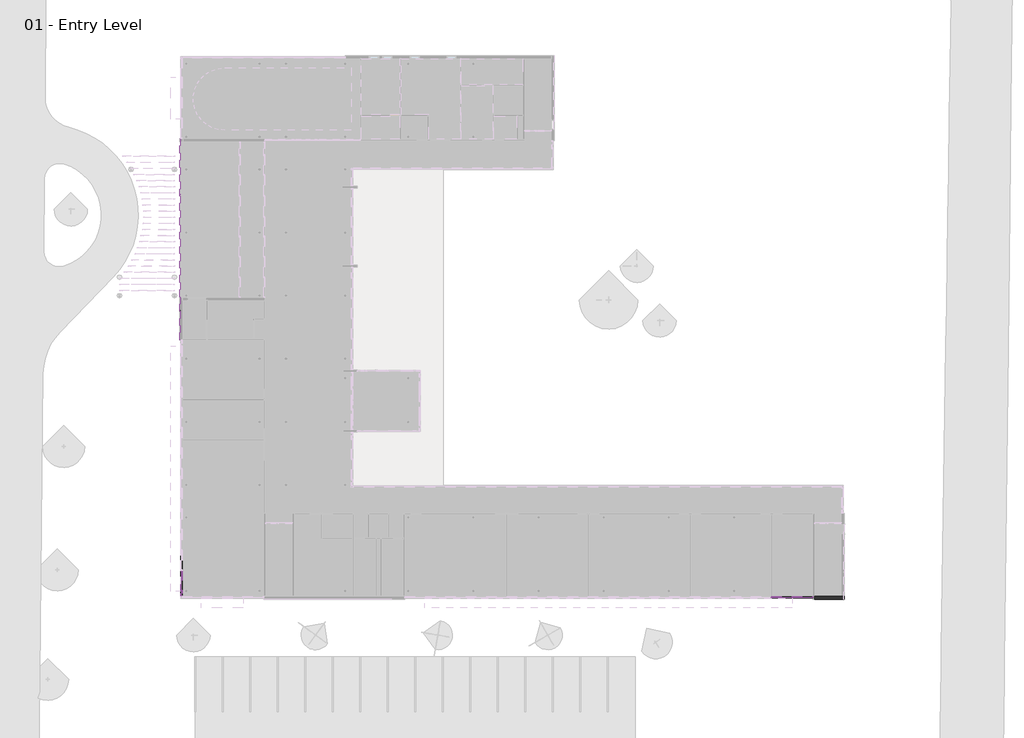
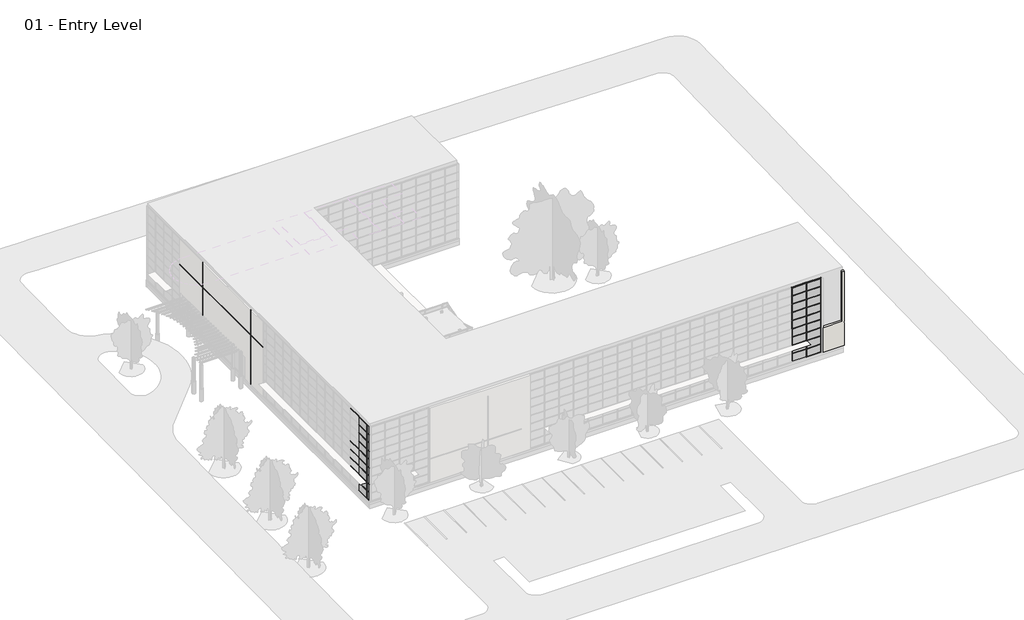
# One storey, part 6 of 35: 86 members, 36 plates, 3 proxies, 1 wall.
"""IFC4 building model written with IfcOpenShell, lengths in millimetres."""

from ifc_helpers import new_model, si_unit, frame, origin, origin_with_axes, place, context, project, spatial, polyline, outline, extrude, faceted_brep, transform, mapped, element, save
from components import member_2b49869a, member_75074519, member_391b434c, member_9e90ae50, member_b9f3750b, member_757d0d80, system_panel_glazed_1b9d6098, system_panel_glazed_70da479d, system_panel_glazed_9ce660bb, system_panel_glazed_81ef7bb2, system_panel_solid_b376696c, system_panel_solid_77e8b053, system_panel_solid_a9b7ce64, system_panel_solid_b759d50d

model = new_model("IFC4")

# Units and contexts
model_context = context("Model", 3, world=origin())
ifc_project = project(units=[si_unit("LENGTHUNIT", "METRE", prefix="MILLI")], contexts=[model_context])

# Site, building, storey
site = spatial("IfcSite", under=ifc_project)
building = spatial("IfcBuilding", under=site)
storey = spatial("IfcBuildingStorey", under=building, Name="01 - Entry Level", Elevation=0.0)

# Proxies
placement = place(None, origin())
element("IfcBuildingElementProxy", 1, Name="Reveal", ObjectType="Reveal", at=placement, inside=storey, context=model_context, shape_type="SweptSolid", body=[
    extrude(outline(polyline([(-27.6542524, 45735.8), (23.1457476, 45735.8), (23.1457476, 25638.05), (-27.6542524, 25638.05), (-27.6542524, 45735.8)])), frame((0.0, 0.0, 7239.0), z_axis=(0.0, 0.0, 1.0), x_axis=(1.0, 0.0, 0.0)), (0.0, 0.0, 1.0), 76.2),
])
element("IfcBuildingElementProxy", 2, Name="Reveal", ObjectType="Reveal", at=placement, inside=storey, context=model_context, shape_type="SweptSolid", body=[
    extrude(outline(polyline([(23.1457476, 40097.0), (-27.6542524, 40097.0), (-27.6542524, 40173.2), (23.1457476, 40173.2), (23.1457476, 40097.0)])), frame((0.0, 0.0, 3200.4), z_axis=(0.0, 0.0, 1.0), x_axis=(1.0, 0.0, 0.0)), (0.0, 0.0, 1.0), 7772.4),
])
element("IfcBuildingElementProxy", 3, Name="Reveal", ObjectType="Reveal", at=placement, inside=storey, context=model_context, shape_type="SweptSolid", body=[
    extrude(outline(polyline([(23.1457476, 28514.6), (-27.6542524, 28514.6), (-27.6542524, 28590.8), (23.1457476, 28590.8), (23.1457476, 28514.6)])), origin_with_axes(), (0.0, 0.0, 1.0), 10972.8),
])

# Members
member_shape = member_2b49869a(model_context)
element("IfcMember", 4, ObjectType="Rectangular Mullion : 2.5\" x 5\" rectangular", at=placement, inside=storey, context=model_context, shape_type="MappedRepresentation", body=[
    mapped(member_shape, transform((59043.2207476, -47.7, 9753.6), x_axis=(1.0, 0.0, 0.0), y_axis=(0.0, -1.0, 0.0), z_axis=(0.0, 0.0, -1.0))),
])
element("IfcMember", 5, ObjectType="Rectangular Mullion : 2.5\" x 5\" rectangular", at=placement, inside=storey, context=model_context, shape_type="MappedRepresentation", body=[
    mapped(member_shape, transform((61075.2207476, -47.7, 9753.6), x_axis=(1.0, 0.0, 0.0), y_axis=(0.0, -1.0, 0.0), z_axis=(0.0, 0.0, -1.0))),
])
element("IfcMember", 6, ObjectType="Rectangular Mullion : 2.5\" x 5\" rectangular", at=placement, inside=storey, context=model_context, shape_type="MappedRepresentation", body=[
    mapped(member_shape, transform((63107.2207476, -47.7, 9753.6), x_axis=(1.0, 0.0, 0.0), y_axis=(0.0, -1.0, 0.0), z_axis=(0.0, 0.0, -1.0))),
])
element("IfcMember", 7, ObjectType="Rectangular Mullion : 2.5\" x 5\" rectangular", at=placement, inside=storey, context=model_context, shape_type="MappedRepresentation", body=[
    mapped(member_shape, transform((178.7207476, 600.0, 9753.6), x_axis=(0.0, -1.0, 0.0), y_axis=(-1.0, 0.0, 0.0), z_axis=(0.0, 0.0, -1.0))),
])
member_2_shape = member_75074519(model_context)
element("IfcMember", 8, ObjectType="Rectangular Mullion : 2.5\" x 5\" rectangular", at=placement, inside=storey, context=model_context, shape_type="MappedRepresentation", body=[
    mapped(member_2_shape, transform((63145.3207476, -47.7, 9753.6), x_axis=(1.0, 0.0, 0.0), y_axis=(0.0, -1.0, 0.0), z_axis=(0.0, 0.0, -1.0))),
])
member_3_shape = member_391b434c(model_context)
element("IfcMember", 9, ObjectType="Rectangular Mullion : 2.5\" x 5\" rectangular", at=placement, inside=storey, context=model_context, shape_type="MappedRepresentation", body=[
    mapped(member_3_shape, transform((178.7207476, 2663.75, 10972.8), x_axis=(0.0, 0.0, 1.0), y_axis=(-1.0, 0.0, 0.0), z_axis=(0.0, -1.0, 0.0))),
])
element("IfcMember", 10, ObjectType="Rectangular Mullion : 2.5\" x 5\" rectangular", at=placement, inside=storey, context=model_context, shape_type="MappedRepresentation", body=[
    mapped(member_3_shape, transform((61043.4707476, -47.7, 10972.8), x_axis=(0.0, 0.0, 1.0), y_axis=(0.0, -1.0, 0.0), z_axis=(1.0, 0.0, 0.0))),
])
element("IfcMember", 11, ObjectType="Rectangular Mullion : 2.5\" x 5\" rectangular", at=placement, inside=storey, context=model_context, shape_type="MappedRepresentation", body=[
    mapped(member_3_shape, transform((63075.4707476, -47.7, 10972.8), x_axis=(0.0, 0.0, 1.0), y_axis=(0.0, -1.0, 0.0), z_axis=(1.0, 0.0, 0.0))),
])
element("IfcMember", 12, ObjectType="Rectangular Mullion : 2.5\" x 5\" rectangular", at=placement, inside=storey, context=model_context, shape_type="MappedRepresentation", body=[
    mapped(member_3_shape, transform((178.7207476, 631.75, 10972.8), x_axis=(0.0, 0.0, 1.0), y_axis=(-1.0, 0.0, 0.0), z_axis=(0.0, -1.0, 0.0))),
])
element("IfcMember", 13, ObjectType="Rectangular Mullion : 2.5\" x 5\" rectangular", at=placement, inside=storey, context=model_context, shape_type="MappedRepresentation", body=[
    mapped(member_3_shape, transform((178.7207476, 2600.25, 0.0), x_axis=(0.0, 0.0, -1.0), y_axis=(-1.0, 0.0, 0.0), z_axis=(0.0, 1.0, 0.0))),
])
element("IfcMember", 14, ObjectType="Rectangular Mullion : 2.5\" x 5\" rectangular", at=placement, inside=storey, context=model_context, shape_type="MappedRepresentation", body=[
    mapped(member_3_shape, transform((61106.9707476, -47.7, 0.0), x_axis=(0.0, 0.0, -1.0), y_axis=(0.0, -1.0, 0.0), z_axis=(-1.0, 0.0, 0.0))),
])
member_4_shape = member_9e90ae50(model_context)
element("IfcMember", 15, ObjectType="Rectangular Mullion : 2.5\" x 5\" rectangular", at=placement, inside=storey, context=model_context, shape_type="MappedRepresentation", body=[
    mapped(member_4_shape, transform((178.7207476, 2663.75, 1219.2), x_axis=(0.0, 0.0, 1.0), y_axis=(-1.0, 0.0, 0.0), z_axis=(0.0, -1.0, 0.0))),
])
element("IfcMember", 16, ObjectType="Rectangular Mullion : 2.5\" x 5\" rectangular", at=placement, inside=storey, context=model_context, shape_type="MappedRepresentation", body=[
    mapped(member_4_shape, transform((178.7207476, 631.75, 1219.2), x_axis=(0.0, 0.0, 1.0), y_axis=(-1.0, 0.0, 0.0), z_axis=(0.0, -1.0, 0.0))),
])
element("IfcMember", 17, ObjectType="Rectangular Mullion : 2.5\" x 5\" rectangular", at=placement, inside=storey, context=model_context, shape_type="MappedRepresentation", body=[
    mapped(member_4_shape, transform((178.7207476, 2663.75, 2438.4), x_axis=(0.0, 0.0, 1.0), y_axis=(-1.0, 0.0, 0.0), z_axis=(0.0, -1.0, 0.0))),
])
element("IfcMember", 18, ObjectType="Rectangular Mullion : 2.5\" x 5\" rectangular", at=placement, inside=storey, context=model_context, shape_type="MappedRepresentation", body=[
    mapped(member_4_shape, transform((178.7207476, 631.75, 2438.4), x_axis=(0.0, 0.0, 1.0), y_axis=(-1.0, 0.0, 0.0), z_axis=(0.0, -1.0, 0.0))),
])
element("IfcMember", 19, ObjectType="Rectangular Mullion : 2.5\" x 5\" rectangular", at=placement, inside=storey, context=model_context, shape_type="MappedRepresentation", body=[
    mapped(member_4_shape, transform((178.7207476, 2663.75, 3657.6), x_axis=(0.0, 0.0, 1.0), y_axis=(-1.0, 0.0, 0.0), z_axis=(0.0, -1.0, 0.0))),
])
element("IfcMember", 20, ObjectType="Rectangular Mullion : 2.5\" x 5\" rectangular", at=placement, inside=storey, context=model_context, shape_type="MappedRepresentation", body=[
    mapped(member_4_shape, transform((178.7207476, 631.75, 3657.6), x_axis=(0.0, 0.0, 1.0), y_axis=(-1.0, 0.0, 0.0), z_axis=(0.0, -1.0, 0.0))),
])
element("IfcMember", 21, ObjectType="Rectangular Mullion : 2.5\" x 5\" rectangular", at=placement, inside=storey, context=model_context, shape_type="MappedRepresentation", body=[
    mapped(member_4_shape, transform((178.7207476, 2663.75, 4876.8), x_axis=(0.0, 0.0, 1.0), y_axis=(-1.0, 0.0, 0.0), z_axis=(0.0, -1.0, 0.0))),
])
element("IfcMember", 22, ObjectType="Rectangular Mullion : 2.5\" x 5\" rectangular", at=placement, inside=storey, context=model_context, shape_type="MappedRepresentation", body=[
    mapped(member_4_shape, transform((178.7207476, 631.75, 4876.8), x_axis=(0.0, 0.0, 1.0), y_axis=(-1.0, 0.0, 0.0), z_axis=(0.0, -1.0, 0.0))),
])
element("IfcMember", 23, ObjectType="Rectangular Mullion : 2.5\" x 5\" rectangular", at=placement, inside=storey, context=model_context, shape_type="MappedRepresentation", body=[
    mapped(member_4_shape, transform((178.7207476, 2663.75, 6096.0), x_axis=(0.0, 0.0, 1.0), y_axis=(-1.0, 0.0, 0.0), z_axis=(0.0, -1.0, 0.0))),
])
element("IfcMember", 24, ObjectType="Rectangular Mullion : 2.5\" x 5\" rectangular", at=placement, inside=storey, context=model_context, shape_type="MappedRepresentation", body=[
    mapped(member_4_shape, transform((178.7207476, 631.75, 6096.0), x_axis=(0.0, 0.0, 1.0), y_axis=(-1.0, 0.0, 0.0), z_axis=(0.0, -1.0, 0.0))),
])
element("IfcMember", 25, ObjectType="Rectangular Mullion : 2.5\" x 5\" rectangular", at=placement, inside=storey, context=model_context, shape_type="MappedRepresentation", body=[
    mapped(member_4_shape, transform((178.7207476, 631.75, 7315.2), x_axis=(0.0, 0.0, 1.0), y_axis=(-1.0, 0.0, 0.0), z_axis=(0.0, -1.0, 0.0))),
])
element("IfcMember", 26, ObjectType="Rectangular Mullion : 2.5\" x 5\" rectangular", at=placement, inside=storey, context=model_context, shape_type="MappedRepresentation", body=[
    mapped(member_4_shape, transform((178.7207476, 631.75, 8534.4), x_axis=(0.0, 0.0, 1.0), y_axis=(-1.0, 0.0, 0.0), z_axis=(0.0, -1.0, 0.0))),
])
element("IfcMember", 27, ObjectType="Rectangular Mullion : 2.5\" x 5\" rectangular", at=placement, inside=storey, context=model_context, shape_type="MappedRepresentation", body=[
    mapped(member_4_shape, transform((178.7207476, 631.75, 9753.6), x_axis=(0.0, 0.0, 1.0), y_axis=(-1.0, 0.0, 0.0), z_axis=(0.0, -1.0, 0.0))),
])
element("IfcMember", 28, ObjectType="Rectangular Mullion : 2.5\" x 5\" rectangular", at=placement, inside=storey, context=model_context, shape_type="MappedRepresentation", body=[
    mapped(member_4_shape, transform((61043.4707476, -47.7, 1219.2), x_axis=(0.0, 0.0, 1.0), y_axis=(0.0, -1.0, 0.0), z_axis=(1.0, 0.0, 0.0))),
])
element("IfcMember", 29, ObjectType="Rectangular Mullion : 2.5\" x 5\" rectangular", at=placement, inside=storey, context=model_context, shape_type="MappedRepresentation", body=[
    mapped(member_4_shape, transform((63075.4707476, -47.7, 1219.2), x_axis=(0.0, 0.0, 1.0), y_axis=(0.0, -1.0, 0.0), z_axis=(1.0, 0.0, 0.0))),
])
element("IfcMember", 30, ObjectType="Rectangular Mullion : 2.5\" x 5\" rectangular", at=placement, inside=storey, context=model_context, shape_type="MappedRepresentation", body=[
    mapped(member_4_shape, transform((61043.4707476, -47.7, 2438.4), x_axis=(0.0, 0.0, 1.0), y_axis=(0.0, -1.0, 0.0), z_axis=(1.0, 0.0, 0.0))),
])
element("IfcMember", 31, ObjectType="Rectangular Mullion : 2.5\" x 5\" rectangular", at=placement, inside=storey, context=model_context, shape_type="MappedRepresentation", body=[
    mapped(member_4_shape, transform((63075.4707476, -47.7, 2438.4), x_axis=(0.0, 0.0, 1.0), y_axis=(0.0, -1.0, 0.0), z_axis=(1.0, 0.0, 0.0))),
])
element("IfcMember", 32, ObjectType="Rectangular Mullion : 2.5\" x 5\" rectangular", at=placement, inside=storey, context=model_context, shape_type="MappedRepresentation", body=[
    mapped(member_4_shape, transform((61043.4707476, -47.7, 3657.6), x_axis=(0.0, 0.0, 1.0), y_axis=(0.0, -1.0, 0.0), z_axis=(1.0, 0.0, 0.0))),
])
element("IfcMember", 33, ObjectType="Rectangular Mullion : 2.5\" x 5\" rectangular", at=placement, inside=storey, context=model_context, shape_type="MappedRepresentation", body=[
    mapped(member_4_shape, transform((63075.4707476, -47.7, 3657.6), x_axis=(0.0, 0.0, 1.0), y_axis=(0.0, -1.0, 0.0), z_axis=(1.0, 0.0, 0.0))),
])
element("IfcMember", 34, ObjectType="Rectangular Mullion : 2.5\" x 5\" rectangular", at=placement, inside=storey, context=model_context, shape_type="MappedRepresentation", body=[
    mapped(member_4_shape, transform((61043.4707476, -47.7, 4876.8), x_axis=(0.0, 0.0, 1.0), y_axis=(0.0, -1.0, 0.0), z_axis=(1.0, 0.0, 0.0))),
])
element("IfcMember", 35, ObjectType="Rectangular Mullion : 2.5\" x 5\" rectangular", at=placement, inside=storey, context=model_context, shape_type="MappedRepresentation", body=[
    mapped(member_4_shape, transform((63075.4707476, -47.7, 4876.8), x_axis=(0.0, 0.0, 1.0), y_axis=(0.0, -1.0, 0.0), z_axis=(1.0, 0.0, 0.0))),
])
element("IfcMember", 36, ObjectType="Rectangular Mullion : 2.5\" x 5\" rectangular", at=placement, inside=storey, context=model_context, shape_type="MappedRepresentation", body=[
    mapped(member_4_shape, transform((61043.4707476, -47.7, 6096.0), x_axis=(0.0, 0.0, 1.0), y_axis=(0.0, -1.0, 0.0), z_axis=(1.0, 0.0, 0.0))),
])
element("IfcMember", 37, ObjectType="Rectangular Mullion : 2.5\" x 5\" rectangular", at=placement, inside=storey, context=model_context, shape_type="MappedRepresentation", body=[
    mapped(member_4_shape, transform((63075.4707476, -47.7, 6096.0), x_axis=(0.0, 0.0, 1.0), y_axis=(0.0, -1.0, 0.0), z_axis=(1.0, 0.0, 0.0))),
])
element("IfcMember", 38, ObjectType="Rectangular Mullion : 2.5\" x 5\" rectangular", at=placement, inside=storey, context=model_context, shape_type="MappedRepresentation", body=[
    mapped(member_4_shape, transform((61043.4707476, -47.7, 7315.2), x_axis=(0.0, 0.0, 1.0), y_axis=(0.0, -1.0, 0.0), z_axis=(1.0, 0.0, 0.0))),
])
element("IfcMember", 39, ObjectType="Rectangular Mullion : 2.5\" x 5\" rectangular", at=placement, inside=storey, context=model_context, shape_type="MappedRepresentation", body=[
    mapped(member_4_shape, transform((63075.4707476, -47.7, 7315.2), x_axis=(0.0, 0.0, 1.0), y_axis=(0.0, -1.0, 0.0), z_axis=(1.0, 0.0, 0.0))),
])
element("IfcMember", 40, ObjectType="Rectangular Mullion : 2.5\" x 5\" rectangular", at=placement, inside=storey, context=model_context, shape_type="MappedRepresentation", body=[
    mapped(member_4_shape, transform((61043.4707476, -47.7, 8534.4), x_axis=(0.0, 0.0, 1.0), y_axis=(0.0, -1.0, 0.0), z_axis=(1.0, 0.0, 0.0))),
])
element("IfcMember", 41, ObjectType="Rectangular Mullion : 2.5\" x 5\" rectangular", at=placement, inside=storey, context=model_context, shape_type="MappedRepresentation", body=[
    mapped(member_4_shape, transform((63075.4707476, -47.7, 8534.4), x_axis=(0.0, 0.0, 1.0), y_axis=(0.0, -1.0, 0.0), z_axis=(1.0, 0.0, 0.0))),
])
element("IfcMember", 42, ObjectType="Rectangular Mullion : 2.5\" x 5\" rectangular", at=placement, inside=storey, context=model_context, shape_type="MappedRepresentation", body=[
    mapped(member_4_shape, transform((61043.4707476, -47.7, 9753.6), x_axis=(0.0, 0.0, 1.0), y_axis=(0.0, -1.0, 0.0), z_axis=(1.0, 0.0, 0.0))),
])
element("IfcMember", 43, ObjectType="Rectangular Mullion : 2.5\" x 5\" rectangular", at=placement, inside=storey, context=model_context, shape_type="MappedRepresentation", body=[
    mapped(member_4_shape, transform((63075.4707476, -47.7, 9753.6), x_axis=(0.0, 0.0, 1.0), y_axis=(0.0, -1.0, 0.0), z_axis=(1.0, 0.0, 0.0))),
])
element("IfcMember", 44, ObjectType="Rectangular Mullion : 2.5\" x 5\" rectangular", at=placement, inside=storey, context=model_context, shape_type="MappedRepresentation", body=[
    mapped(member_shape, transform((61075.2207476, -47.7, 0.0), x_axis=(1.0, 0.0, 0.0), y_axis=(0.0, -1.0, 0.0), z_axis=(0.0, 0.0, -1.0))),
])
element("IfcMember", 45, ObjectType="Rectangular Mullion : 2.5\" x 5\" rectangular", at=placement, inside=storey, context=model_context, shape_type="MappedRepresentation", body=[
    mapped(member_shape, transform((63107.2207476, -47.7, 0.0), x_axis=(1.0, 0.0, 0.0), y_axis=(0.0, -1.0, 0.0), z_axis=(0.0, 0.0, -1.0))),
])
element("IfcMember", 46, ObjectType="Rectangular Mullion : 2.5\" x 5\" rectangular", at=placement, inside=storey, context=model_context, shape_type="MappedRepresentation", body=[
    mapped(member_shape, transform((178.7207476, 600.0, 0.0), x_axis=(0.0, -1.0, 0.0), y_axis=(-1.0, 0.0, 0.0), z_axis=(0.0, 0.0, -1.0))),
])
element("IfcMember", 47, ObjectType="Rectangular Mullion : 2.5\" x 5\" rectangular", at=placement, inside=storey, context=model_context, shape_type="MappedRepresentation", body=[
    mapped(member_shape, transform((61075.2207476, -47.7, 1219.2), x_axis=(1.0, 0.0, 0.0), y_axis=(0.0, -1.0, 0.0), z_axis=(0.0, 0.0, -1.0))),
])
element("IfcMember", 48, ObjectType="Rectangular Mullion : 2.5\" x 5\" rectangular", at=placement, inside=storey, context=model_context, shape_type="MappedRepresentation", body=[
    mapped(member_shape, transform((61075.2207476, -47.7, 2438.4), x_axis=(1.0, 0.0, 0.0), y_axis=(0.0, -1.0, 0.0), z_axis=(0.0, 0.0, -1.0))),
])
element("IfcMember", 49, ObjectType="Rectangular Mullion : 2.5\" x 5\" rectangular", at=placement, inside=storey, context=model_context, shape_type="MappedRepresentation", body=[
    mapped(member_shape, transform((61075.2207476, -47.7, 3657.6), x_axis=(1.0, 0.0, 0.0), y_axis=(0.0, -1.0, 0.0), z_axis=(0.0, 0.0, -1.0))),
])
element("IfcMember", 50, ObjectType="Rectangular Mullion : 2.5\" x 5\" rectangular", at=placement, inside=storey, context=model_context, shape_type="MappedRepresentation", body=[
    mapped(member_shape, transform((59043.2207476, -47.7, 4876.8), x_axis=(1.0, 0.0, 0.0), y_axis=(0.0, -1.0, 0.0), z_axis=(0.0, 0.0, -1.0))),
])
element("IfcMember", 51, ObjectType="Rectangular Mullion : 2.5\" x 5\" rectangular", at=placement, inside=storey, context=model_context, shape_type="MappedRepresentation", body=[
    mapped(member_shape, transform((61075.2207476, -47.7, 4876.8), x_axis=(1.0, 0.0, 0.0), y_axis=(0.0, -1.0, 0.0), z_axis=(0.0, 0.0, -1.0))),
])
element("IfcMember", 52, ObjectType="Rectangular Mullion : 2.5\" x 5\" rectangular", at=placement, inside=storey, context=model_context, shape_type="MappedRepresentation", body=[
    mapped(member_shape, transform((59043.2207476, -47.7, 6096.0), x_axis=(1.0, 0.0, 0.0), y_axis=(0.0, -1.0, 0.0), z_axis=(0.0, 0.0, -1.0))),
])
element("IfcMember", 53, ObjectType="Rectangular Mullion : 2.5\" x 5\" rectangular", at=placement, inside=storey, context=model_context, shape_type="MappedRepresentation", body=[
    mapped(member_shape, transform((61075.2207476, -47.7, 6096.0), x_axis=(1.0, 0.0, 0.0), y_axis=(0.0, -1.0, 0.0), z_axis=(0.0, 0.0, -1.0))),
])
element("IfcMember", 54, ObjectType="Rectangular Mullion : 2.5\" x 5\" rectangular", at=placement, inside=storey, context=model_context, shape_type="MappedRepresentation", body=[
    mapped(member_shape, transform((59043.2207476, -47.7, 7315.2), x_axis=(1.0, 0.0, 0.0), y_axis=(0.0, -1.0, 0.0), z_axis=(0.0, 0.0, -1.0))),
])
element("IfcMember", 55, ObjectType="Rectangular Mullion : 2.5\" x 5\" rectangular", at=placement, inside=storey, context=model_context, shape_type="MappedRepresentation", body=[
    mapped(member_shape, transform((61075.2207476, -47.7, 7315.2), x_axis=(1.0, 0.0, 0.0), y_axis=(0.0, -1.0, 0.0), z_axis=(0.0, 0.0, -1.0))),
])
element("IfcMember", 56, ObjectType="Rectangular Mullion : 2.5\" x 5\" rectangular", at=placement, inside=storey, context=model_context, shape_type="MappedRepresentation", body=[
    mapped(member_shape, transform((59043.2207476, -47.7, 8534.4), x_axis=(1.0, 0.0, 0.0), y_axis=(0.0, -1.0, 0.0), z_axis=(0.0, 0.0, -1.0))),
])
element("IfcMember", 57, ObjectType="Rectangular Mullion : 2.5\" x 5\" rectangular", at=placement, inside=storey, context=model_context, shape_type="MappedRepresentation", body=[
    mapped(member_shape, transform((61075.2207476, -47.7, 8534.4), x_axis=(1.0, 0.0, 0.0), y_axis=(0.0, -1.0, 0.0), z_axis=(0.0, 0.0, -1.0))),
])
element("IfcMember", 58, ObjectType="Rectangular Mullion : 2.5\" x 5\" rectangular", at=placement, inside=storey, context=model_context, shape_type="MappedRepresentation", body=[
    mapped(member_shape, transform((63107.2207476, -47.7, 1219.2), x_axis=(1.0, 0.0, 0.0), y_axis=(0.0, -1.0, 0.0), z_axis=(0.0, 0.0, -1.0))),
])
element("IfcMember", 59, ObjectType="Rectangular Mullion : 2.5\" x 5\" rectangular", at=placement, inside=storey, context=model_context, shape_type="MappedRepresentation", body=[
    mapped(member_shape, transform((63107.2207476, -47.7, 2438.4), x_axis=(1.0, 0.0, 0.0), y_axis=(0.0, -1.0, 0.0), z_axis=(0.0, 0.0, -1.0))),
])
element("IfcMember", 60, ObjectType="Rectangular Mullion : 2.5\" x 5\" rectangular", at=placement, inside=storey, context=model_context, shape_type="MappedRepresentation", body=[
    mapped(member_shape, transform((63107.2207476, -47.7, 3657.6), x_axis=(1.0, 0.0, 0.0), y_axis=(0.0, -1.0, 0.0), z_axis=(0.0, 0.0, -1.0))),
])
element("IfcMember", 61, ObjectType="Rectangular Mullion : 2.5\" x 5\" rectangular", at=placement, inside=storey, context=model_context, shape_type="MappedRepresentation", body=[
    mapped(member_shape, transform((63107.2207476, -47.7, 4876.8), x_axis=(1.0, 0.0, 0.0), y_axis=(0.0, -1.0, 0.0), z_axis=(0.0, 0.0, -1.0))),
])
element("IfcMember", 62, ObjectType="Rectangular Mullion : 2.5\" x 5\" rectangular", at=placement, inside=storey, context=model_context, shape_type="MappedRepresentation", body=[
    mapped(member_shape, transform((63107.2207476, -47.7, 6096.0), x_axis=(1.0, 0.0, 0.0), y_axis=(0.0, -1.0, 0.0), z_axis=(0.0, 0.0, -1.0))),
])
element("IfcMember", 63, ObjectType="Rectangular Mullion : 2.5\" x 5\" rectangular", at=placement, inside=storey, context=model_context, shape_type="MappedRepresentation", body=[
    mapped(member_shape, transform((63107.2207476, -47.7, 7315.2), x_axis=(1.0, 0.0, 0.0), y_axis=(0.0, -1.0, 0.0), z_axis=(0.0, 0.0, -1.0))),
])
element("IfcMember", 64, ObjectType="Rectangular Mullion : 2.5\" x 5\" rectangular", at=placement, inside=storey, context=model_context, shape_type="MappedRepresentation", body=[
    mapped(member_shape, transform((63107.2207476, -47.7, 8534.4), x_axis=(1.0, 0.0, 0.0), y_axis=(0.0, -1.0, 0.0), z_axis=(0.0, 0.0, -1.0))),
])
element("IfcMember", 65, ObjectType="Rectangular Mullion : 2.5\" x 5\" rectangular", at=placement, inside=storey, context=model_context, shape_type="MappedRepresentation", body=[
    mapped(member_shape, transform((178.7207476, 600.0, 1219.2), x_axis=(0.0, -1.0, 0.0), y_axis=(-1.0, 0.0, 0.0), z_axis=(0.0, 0.0, -1.0))),
])
element("IfcMember", 66, ObjectType="Rectangular Mullion : 2.5\" x 5\" rectangular", at=placement, inside=storey, context=model_context, shape_type="MappedRepresentation", body=[
    mapped(member_shape, transform((178.7207476, 600.0, 2438.4), x_axis=(0.0, -1.0, 0.0), y_axis=(-1.0, 0.0, 0.0), z_axis=(0.0, 0.0, -1.0))),
])
element("IfcMember", 67, ObjectType="Rectangular Mullion : 2.5\" x 5\" rectangular", at=placement, inside=storey, context=model_context, shape_type="MappedRepresentation", body=[
    mapped(member_shape, transform((178.7207476, 600.0, 3657.6), x_axis=(0.0, -1.0, 0.0), y_axis=(-1.0, 0.0, 0.0), z_axis=(0.0, 0.0, -1.0))),
])
element("IfcMember", 68, ObjectType="Rectangular Mullion : 2.5\" x 5\" rectangular", at=placement, inside=storey, context=model_context, shape_type="MappedRepresentation", body=[
    mapped(member_shape, transform((178.7207476, 600.0, 4876.8), x_axis=(0.0, -1.0, 0.0), y_axis=(-1.0, 0.0, 0.0), z_axis=(0.0, 0.0, -1.0))),
])
element("IfcMember", 69, ObjectType="Rectangular Mullion : 2.5\" x 5\" rectangular", at=placement, inside=storey, context=model_context, shape_type="MappedRepresentation", body=[
    mapped(member_shape, transform((178.7207476, 600.0, 6096.0), x_axis=(0.0, -1.0, 0.0), y_axis=(-1.0, 0.0, 0.0), z_axis=(0.0, 0.0, -1.0))),
])
element("IfcMember", 70, ObjectType="Rectangular Mullion : 2.5\" x 5\" rectangular", at=placement, inside=storey, context=model_context, shape_type="MappedRepresentation", body=[
    mapped(member_shape, transform((178.7207476, 600.0, 7315.2), x_axis=(0.0, -1.0, 0.0), y_axis=(-1.0, 0.0, 0.0), z_axis=(0.0, 0.0, -1.0))),
])
element("IfcMember", 71, ObjectType="Rectangular Mullion : 2.5\" x 5\" rectangular", at=placement, inside=storey, context=model_context, shape_type="MappedRepresentation", body=[
    mapped(member_shape, transform((178.7207476, 600.0, 8534.4), x_axis=(0.0, -1.0, 0.0), y_axis=(-1.0, 0.0, 0.0), z_axis=(0.0, 0.0, -1.0))),
])
element("IfcMember", 72, ObjectType="Rectangular Mullion : 2.5\" x 5\" rectangular", at=placement, inside=storey, context=model_context, shape_type="MappedRepresentation", body=[
    mapped(member_2_shape, transform((63145.3207476, -47.7, 0.0), x_axis=(1.0, 0.0, 0.0), y_axis=(0.0, -1.0, 0.0), z_axis=(0.0, 0.0, -1.0))),
])
element("IfcMember", 73, ObjectType="Rectangular Mullion : 2.5\" x 5\" rectangular", at=placement, inside=storey, context=model_context, shape_type="MappedRepresentation", body=[
    mapped(member_2_shape, transform((63145.3207476, -47.7, 1219.2), x_axis=(1.0, 0.0, 0.0), y_axis=(0.0, -1.0, 0.0), z_axis=(0.0, 0.0, -1.0))),
])
element("IfcMember", 74, ObjectType="Rectangular Mullion : 2.5\" x 5\" rectangular", at=placement, inside=storey, context=model_context, shape_type="MappedRepresentation", body=[
    mapped(member_2_shape, transform((63145.3207476, -47.7, 2438.4), x_axis=(1.0, 0.0, 0.0), y_axis=(0.0, -1.0, 0.0), z_axis=(0.0, 0.0, -1.0))),
])
element("IfcMember", 75, ObjectType="Rectangular Mullion : 2.5\" x 5\" rectangular", at=placement, inside=storey, context=model_context, shape_type="MappedRepresentation", body=[
    mapped(member_2_shape, transform((63145.3207476, -47.7, 3657.6), x_axis=(1.0, 0.0, 0.0), y_axis=(0.0, -1.0, 0.0), z_axis=(0.0, 0.0, -1.0))),
])
element("IfcMember", 76, ObjectType="Rectangular Mullion : 2.5\" x 5\" rectangular", at=placement, inside=storey, context=model_context, shape_type="MappedRepresentation", body=[
    mapped(member_2_shape, transform((63145.3207476, -47.7, 4876.8), x_axis=(1.0, 0.0, 0.0), y_axis=(0.0, -1.0, 0.0), z_axis=(0.0, 0.0, -1.0))),
])
element("IfcMember", 77, ObjectType="Rectangular Mullion : 2.5\" x 5\" rectangular", at=placement, inside=storey, context=model_context, shape_type="MappedRepresentation", body=[
    mapped(member_2_shape, transform((63145.3207476, -47.7, 6096.0), x_axis=(1.0, 0.0, 0.0), y_axis=(0.0, -1.0, 0.0), z_axis=(0.0, 0.0, -1.0))),
])
element("IfcMember", 78, ObjectType="Rectangular Mullion : 2.5\" x 5\" rectangular", at=placement, inside=storey, context=model_context, shape_type="MappedRepresentation", body=[
    mapped(member_2_shape, transform((63145.3207476, -47.7, 7315.2), x_axis=(1.0, 0.0, 0.0), y_axis=(0.0, -1.0, 0.0), z_axis=(0.0, 0.0, -1.0))),
])
element("IfcMember", 79, ObjectType="Rectangular Mullion : 2.5\" x 5\" rectangular", at=placement, inside=storey, context=model_context, shape_type="MappedRepresentation", body=[
    mapped(member_2_shape, transform((63145.3207476, -47.7, 8534.4), x_axis=(1.0, 0.0, 0.0), y_axis=(0.0, -1.0, 0.0), z_axis=(0.0, 0.0, -1.0))),
])
member_5_shape = member_b9f3750b(model_context)
element("IfcMember", 80, ObjectType="Rectangular Mullion : 2.5\" x 5\" rectangular", at=placement, inside=storey, context=model_context, shape_type="MappedRepresentation", body=[
    mapped(member_5_shape, transform((178.7207476, 79.3, 10972.8), x_axis=(0.0, 0.0, 1.0), y_axis=(-1.0, 0.0, 0.0), z_axis=(0.0, -1.0, 0.0))),
])
element("IfcMember", 81, ObjectType="Rectangular Mullion : 2.5\" x 5\" rectangular", at=placement, inside=storey, context=model_context, shape_type="MappedRepresentation", body=[
    mapped(member_5_shape, transform((178.7207476, 568.25, 0.0), x_axis=(0.0, 0.0, -1.0), y_axis=(-1.0, 0.0, 0.0), z_axis=(0.0, 1.0, 0.0))),
])
member_6_shape = member_757d0d80(model_context)
element("IfcMember", 82, ObjectType="Rectangular Mullion : 2.5\" x 5\" rectangular", at=placement, inside=storey, context=model_context, shape_type="MappedRepresentation", body=[
    mapped(member_6_shape, transform((178.7207476, 79.3, 1219.2), x_axis=(0.0, 0.0, 1.0), y_axis=(-1.0, 0.0, 0.0), z_axis=(0.0, -1.0, 0.0))),
])
element("IfcMember", 83, ObjectType="Rectangular Mullion : 2.5\" x 5\" rectangular", at=placement, inside=storey, context=model_context, shape_type="MappedRepresentation", body=[
    mapped(member_6_shape, transform((178.7207476, 79.3, 2438.4), x_axis=(0.0, 0.0, 1.0), y_axis=(-1.0, 0.0, 0.0), z_axis=(0.0, -1.0, 0.0))),
])
element("IfcMember", 84, ObjectType="Rectangular Mullion : 2.5\" x 5\" rectangular", at=placement, inside=storey, context=model_context, shape_type="MappedRepresentation", body=[
    mapped(member_6_shape, transform((178.7207476, 79.3, 3657.6), x_axis=(0.0, 0.0, 1.0), y_axis=(-1.0, 0.0, 0.0), z_axis=(0.0, -1.0, 0.0))),
])
element("IfcMember", 85, ObjectType="Rectangular Mullion : 2.5\" x 5\" rectangular", at=placement, inside=storey, context=model_context, shape_type="MappedRepresentation", body=[
    mapped(member_6_shape, transform((178.7207476, 79.3, 4876.8), x_axis=(0.0, 0.0, 1.0), y_axis=(-1.0, 0.0, 0.0), z_axis=(0.0, -1.0, 0.0))),
])
element("IfcMember", 86, ObjectType="Rectangular Mullion : 2.5\" x 5\" rectangular", at=placement, inside=storey, context=model_context, shape_type="MappedRepresentation", body=[
    mapped(member_6_shape, transform((178.7207476, 79.3, 6096.0), x_axis=(0.0, 0.0, 1.0), y_axis=(-1.0, 0.0, 0.0), z_axis=(0.0, -1.0, 0.0))),
])
element("IfcMember", 87, ObjectType="Rectangular Mullion : 2.5\" x 5\" rectangular", at=placement, inside=storey, context=model_context, shape_type="MappedRepresentation", body=[
    mapped(member_6_shape, transform((178.7207476, 79.3, 7315.2), x_axis=(0.0, 0.0, 1.0), y_axis=(-1.0, 0.0, 0.0), z_axis=(0.0, -1.0, 0.0))),
])
element("IfcMember", 88, ObjectType="Rectangular Mullion : 2.5\" x 5\" rectangular", at=placement, inside=storey, context=model_context, shape_type="MappedRepresentation", body=[
    mapped(member_6_shape, transform((178.7207476, 79.3, 8534.4), x_axis=(0.0, 0.0, 1.0), y_axis=(-1.0, 0.0, 0.0), z_axis=(0.0, -1.0, 0.0))),
])
element("IfcMember", 89, ObjectType="Rectangular Mullion : 2.5\" x 5\" rectangular", at=placement, inside=storey, context=model_context, shape_type="MappedRepresentation", body=[
    mapped(member_6_shape, transform((178.7207476, 79.3, 9753.6), x_axis=(0.0, 0.0, 1.0), y_axis=(-1.0, 0.0, 0.0), z_axis=(0.0, -1.0, 0.0))),
])

# Plates
system_panel_glazed_shape = system_panel_glazed_1b9d6098(model_context)
element("IfcPlate", 90, ObjectType="System Panel : Glazed", at=placement, inside=storey, context=model_context, shape_type="MappedRepresentation", body=[
    mapped(system_panel_glazed_shape, transform((60059.2207476, -47.7, 63.5), x_axis=(1.0, 0.0, 0.0), y_axis=(0.0, 1.0, 0.0), z_axis=(0.0, 0.0, 1.0))),
])
element("IfcPlate", 91, ObjectType="System Panel : Glazed", at=placement, inside=storey, context=model_context, shape_type="MappedRepresentation", body=[
    mapped(system_panel_glazed_shape, transform((62091.2207476, -47.7, 63.5), x_axis=(1.0, 0.0, 0.0), y_axis=(0.0, 1.0, 0.0), z_axis=(0.0, 0.0, 1.0))),
])
element("IfcPlate", 92, ObjectType="System Panel : Glazed", at=placement, inside=storey, context=model_context, shape_type="MappedRepresentation", body=[
    mapped(system_panel_glazed_shape, transform((178.7207476, 1616.0, 63.5), x_axis=(0.0, -1.0, 0.0), y_axis=(1.0, 0.0, 0.0), z_axis=(0.0, 0.0, 1.0))),
])
system_panel_glazed_2_shape = system_panel_glazed_70da479d(model_context)
element("IfcPlate", 93, ObjectType="System Panel : Glazed", at=placement, inside=storey, context=model_context, shape_type="MappedRepresentation", body=[
    mapped(system_panel_glazed_2_shape, transform((60059.2207476, -47.7, 1250.95), x_axis=(1.0, 0.0, 0.0), y_axis=(0.0, 1.0, 0.0), z_axis=(0.0, 0.0, 1.0))),
])
element("IfcPlate", 94, ObjectType="System Panel : Glazed", at=placement, inside=storey, context=model_context, shape_type="MappedRepresentation", body=[
    mapped(system_panel_glazed_2_shape, transform((62091.2207476, -47.7, 1250.95), x_axis=(1.0, 0.0, 0.0), y_axis=(0.0, 1.0, 0.0), z_axis=(0.0, 0.0, 1.0))),
])
element("IfcPlate", 95, ObjectType="System Panel : Glazed", at=placement, inside=storey, context=model_context, shape_type="MappedRepresentation", body=[
    mapped(system_panel_glazed_2_shape, transform((60059.2207476, -47.7, 3689.35), x_axis=(1.0, 0.0, 0.0), y_axis=(0.0, 1.0, 0.0), z_axis=(0.0, 0.0, 1.0))),
])
element("IfcPlate", 96, ObjectType="System Panel : Glazed", at=placement, inside=storey, context=model_context, shape_type="MappedRepresentation", body=[
    mapped(system_panel_glazed_2_shape, transform((62091.2207476, -47.7, 3689.35), x_axis=(1.0, 0.0, 0.0), y_axis=(0.0, 1.0, 0.0), z_axis=(0.0, 0.0, 1.0))),
])
element("IfcPlate", 97, ObjectType="System Panel : Glazed", at=placement, inside=storey, context=model_context, shape_type="MappedRepresentation", body=[
    mapped(system_panel_glazed_2_shape, transform((60059.2207476, -47.7, 4908.55), x_axis=(1.0, 0.0, 0.0), y_axis=(0.0, 1.0, 0.0), z_axis=(0.0, 0.0, 1.0))),
])
element("IfcPlate", 98, ObjectType="System Panel : Glazed", at=placement, inside=storey, context=model_context, shape_type="MappedRepresentation", body=[
    mapped(system_panel_glazed_2_shape, transform((62091.2207476, -47.7, 4908.55), x_axis=(1.0, 0.0, 0.0), y_axis=(0.0, 1.0, 0.0), z_axis=(0.0, 0.0, 1.0))),
])
element("IfcPlate", 99, ObjectType="System Panel : Glazed", at=placement, inside=storey, context=model_context, shape_type="MappedRepresentation", body=[
    mapped(system_panel_glazed_2_shape, transform((60059.2207476, -47.7, 7346.95), x_axis=(1.0, 0.0, 0.0), y_axis=(0.0, 1.0, 0.0), z_axis=(0.0, 0.0, 1.0))),
])
element("IfcPlate", 100, ObjectType="System Panel : Glazed", at=placement, inside=storey, context=model_context, shape_type="MappedRepresentation", body=[
    mapped(system_panel_glazed_2_shape, transform((62091.2207476, -47.7, 7346.95), x_axis=(1.0, 0.0, 0.0), y_axis=(0.0, 1.0, 0.0), z_axis=(0.0, 0.0, 1.0))),
])
element("IfcPlate", 101, ObjectType="System Panel : Glazed", at=placement, inside=storey, context=model_context, shape_type="MappedRepresentation", body=[
    mapped(system_panel_glazed_2_shape, transform((60059.2207476, -47.7, 8566.15), x_axis=(1.0, 0.0, 0.0), y_axis=(0.0, 1.0, 0.0), z_axis=(0.0, 0.0, 1.0))),
])
element("IfcPlate", 102, ObjectType="System Panel : Glazed", at=placement, inside=storey, context=model_context, shape_type="MappedRepresentation", body=[
    mapped(system_panel_glazed_2_shape, transform((62091.2207476, -47.7, 8566.15), x_axis=(1.0, 0.0, 0.0), y_axis=(0.0, 1.0, 0.0), z_axis=(0.0, 0.0, 1.0))),
])
element("IfcPlate", 103, ObjectType="System Panel : Glazed", at=placement, inside=storey, context=model_context, shape_type="MappedRepresentation", body=[
    mapped(system_panel_glazed_2_shape, transform((178.7207476, 1616.0, 1250.95), x_axis=(0.0, -1.0, 0.0), y_axis=(1.0, 0.0, 0.0), z_axis=(0.0, 0.0, 1.0))),
])
element("IfcPlate", 104, ObjectType="System Panel : Glazed", at=placement, inside=storey, context=model_context, shape_type="MappedRepresentation", body=[
    mapped(system_panel_glazed_2_shape, transform((178.7207476, 1616.0, 3689.35), x_axis=(0.0, -1.0, 0.0), y_axis=(1.0, 0.0, 0.0), z_axis=(0.0, 0.0, 1.0))),
])
element("IfcPlate", 105, ObjectType="System Panel : Glazed", at=placement, inside=storey, context=model_context, shape_type="MappedRepresentation", body=[
    mapped(system_panel_glazed_2_shape, transform((178.7207476, 1616.0, 4908.55), x_axis=(0.0, -1.0, 0.0), y_axis=(1.0, 0.0, 0.0), z_axis=(0.0, 0.0, 1.0))),
])
element("IfcPlate", 106, ObjectType="System Panel : Glazed", at=placement, inside=storey, context=model_context, shape_type="MappedRepresentation", body=[
    mapped(system_panel_glazed_2_shape, transform((178.7207476, 1616.0, 7346.95), x_axis=(0.0, -1.0, 0.0), y_axis=(1.0, 0.0, 0.0), z_axis=(0.0, 0.0, 1.0))),
])
element("IfcPlate", 107, ObjectType="System Panel : Glazed", at=placement, inside=storey, context=model_context, shape_type="MappedRepresentation", body=[
    mapped(system_panel_glazed_2_shape, transform((178.7207476, 1616.0, 8566.15), x_axis=(0.0, -1.0, 0.0), y_axis=(1.0, 0.0, 0.0), z_axis=(0.0, 0.0, 1.0))),
])
system_panel_glazed_3_shape = system_panel_glazed_9ce660bb(model_context)
element("IfcPlate", 108, ObjectType="System Panel : Glazed", at=placement, inside=storey, context=model_context, shape_type="MappedRepresentation", body=[
    mapped(system_panel_glazed_3_shape, transform((178.7207476, 323.775, 63.5), x_axis=(0.0, -1.0, 0.0), y_axis=(1.0, 0.0, 0.0), z_axis=(0.0, 0.0, 1.0))),
])
system_panel_glazed_4_shape = system_panel_glazed_81ef7bb2(model_context)
element("IfcPlate", 109, ObjectType="System Panel : Glazed", at=placement, inside=storey, context=model_context, shape_type="MappedRepresentation", body=[
    mapped(system_panel_glazed_4_shape, transform((178.7207476, 323.775, 1250.95), x_axis=(0.0, -1.0, 0.0), y_axis=(1.0, 0.0, 0.0), z_axis=(0.0, 0.0, 1.0))),
])
element("IfcPlate", 110, ObjectType="System Panel : Glazed", at=placement, inside=storey, context=model_context, shape_type="MappedRepresentation", body=[
    mapped(system_panel_glazed_4_shape, transform((178.7207476, 323.775, 3689.35), x_axis=(0.0, -1.0, 0.0), y_axis=(1.0, 0.0, 0.0), z_axis=(0.0, 0.0, 1.0))),
])
element("IfcPlate", 111, ObjectType="System Panel : Glazed", at=placement, inside=storey, context=model_context, shape_type="MappedRepresentation", body=[
    mapped(system_panel_glazed_4_shape, transform((178.7207476, 323.775, 4908.55), x_axis=(0.0, -1.0, 0.0), y_axis=(1.0, 0.0, 0.0), z_axis=(0.0, 0.0, 1.0))),
])
element("IfcPlate", 112, ObjectType="System Panel : Glazed", at=placement, inside=storey, context=model_context, shape_type="MappedRepresentation", body=[
    mapped(system_panel_glazed_4_shape, transform((178.7207476, 323.775, 7346.95), x_axis=(0.0, -1.0, 0.0), y_axis=(1.0, 0.0, 0.0), z_axis=(0.0, 0.0, 1.0))),
])
element("IfcPlate", 113, ObjectType="System Panel : Glazed", at=placement, inside=storey, context=model_context, shape_type="MappedRepresentation", body=[
    mapped(system_panel_glazed_4_shape, transform((178.7207476, 323.775, 8566.15), x_axis=(0.0, -1.0, 0.0), y_axis=(1.0, 0.0, 0.0), z_axis=(0.0, 0.0, 1.0))),
])
system_panel_solid_shape = system_panel_solid_b376696c(model_context)
element("IfcPlate", 114, ObjectType="System Panel : Solid", at=placement, inside=storey, context=model_context, shape_type="MappedRepresentation", body=[
    mapped(system_panel_solid_shape, transform((60059.2207476, -47.7, 9785.35), x_axis=(1.0, 0.0, 0.0), y_axis=(0.0, 1.0, 0.0), z_axis=(0.0, 0.0, 1.0))),
])
element("IfcPlate", 115, ObjectType="System Panel : Solid", at=placement, inside=storey, context=model_context, shape_type="MappedRepresentation", body=[
    mapped(system_panel_solid_shape, transform((62091.2207476, -47.7, 9785.35), x_axis=(1.0, 0.0, 0.0), y_axis=(0.0, 1.0, 0.0), z_axis=(0.0, 0.0, 1.0))),
])
element("IfcPlate", 116, ObjectType="System Panel : Solid", at=placement, inside=storey, context=model_context, shape_type="MappedRepresentation", body=[
    mapped(system_panel_solid_shape, transform((178.7207476, 1616.0, 9785.35), x_axis=(0.0, -1.0, 0.0), y_axis=(1.0, 0.0, 0.0), z_axis=(0.0, 0.0, 1.0))),
])
system_panel_solid_2_shape = system_panel_solid_77e8b053(model_context)
element("IfcPlate", 117, ObjectType="System Panel : Solid", at=placement, inside=storey, context=model_context, shape_type="MappedRepresentation", body=[
    mapped(system_panel_solid_2_shape, transform((60059.2207476, -47.7, 2470.15), x_axis=(1.0, 0.0, 0.0), y_axis=(0.0, 1.0, 0.0), z_axis=(0.0, 0.0, 1.0))),
])
element("IfcPlate", 118, ObjectType="System Panel : Solid", at=placement, inside=storey, context=model_context, shape_type="MappedRepresentation", body=[
    mapped(system_panel_solid_2_shape, transform((62091.2207476, -47.7, 2470.15), x_axis=(1.0, 0.0, 0.0), y_axis=(0.0, 1.0, 0.0), z_axis=(0.0, 0.0, 1.0))),
])
element("IfcPlate", 119, ObjectType="System Panel : Solid", at=placement, inside=storey, context=model_context, shape_type="MappedRepresentation", body=[
    mapped(system_panel_solid_2_shape, transform((60059.2207476, -47.7, 6127.75), x_axis=(1.0, 0.0, 0.0), y_axis=(0.0, 1.0, 0.0), z_axis=(0.0, 0.0, 1.0))),
])
element("IfcPlate", 120, ObjectType="System Panel : Solid", at=placement, inside=storey, context=model_context, shape_type="MappedRepresentation", body=[
    mapped(system_panel_solid_2_shape, transform((62091.2207476, -47.7, 6127.75), x_axis=(1.0, 0.0, 0.0), y_axis=(0.0, 1.0, 0.0), z_axis=(0.0, 0.0, 1.0))),
])
element("IfcPlate", 121, ObjectType="System Panel : Solid", at=placement, inside=storey, context=model_context, shape_type="MappedRepresentation", body=[
    mapped(system_panel_solid_2_shape, transform((178.7207476, 1616.0, 2470.15), x_axis=(0.0, -1.0, 0.0), y_axis=(1.0, 0.0, 0.0), z_axis=(0.0, 0.0, 1.0))),
])
element("IfcPlate", 122, ObjectType="System Panel : Solid", at=placement, inside=storey, context=model_context, shape_type="MappedRepresentation", body=[
    mapped(system_panel_solid_2_shape, transform((178.7207476, 1616.0, 6127.75), x_axis=(0.0, -1.0, 0.0), y_axis=(1.0, 0.0, 0.0), z_axis=(0.0, 0.0, 1.0))),
])
system_panel_solid_3_shape = system_panel_solid_a9b7ce64(model_context)
element("IfcPlate", 123, ObjectType="System Panel : Solid", at=placement, inside=storey, context=model_context, shape_type="MappedRepresentation", body=[
    mapped(system_panel_solid_3_shape, transform((178.7207476, 323.775, 2470.15), x_axis=(0.0, -1.0, 0.0), y_axis=(1.0, 0.0, 0.0), z_axis=(0.0, 0.0, 1.0))),
])
element("IfcPlate", 124, ObjectType="System Panel : Solid", at=placement, inside=storey, context=model_context, shape_type="MappedRepresentation", body=[
    mapped(system_panel_solid_3_shape, transform((178.7207476, 323.775, 6127.75), x_axis=(0.0, -1.0, 0.0), y_axis=(1.0, 0.0, 0.0), z_axis=(0.0, 0.0, 1.0))),
])
system_panel_solid_4_shape = system_panel_solid_b759d50d(model_context)
element("IfcPlate", 125, ObjectType="System Panel : Solid", at=placement, inside=storey, context=model_context, shape_type="MappedRepresentation", body=[
    mapped(system_panel_solid_4_shape, transform((178.7207476, 323.775, 9785.35), x_axis=(0.0, -1.0, 0.0), y_axis=(1.0, 0.0, 0.0), z_axis=(0.0, 0.0, 1.0))),
])

# Wall
element("IfcWall", 126, ObjectType="Exterior - EIFS on CMU", at=placement, inside=storey, context=model_context, shape_type="Brep", body=[
    faceted_brep([(63356.4582476, -254.075, 0.0), (66310.7957476, -254.075, 0.0), (66310.7957476, -254.075, 3429.0), (66259.9957476, -254.075, 3429.0), (66259.9957476, -254.075, 3505.2), (66310.7957476, -254.075, 3505.2), (66310.7957476, -254.075, 10972.8), (66015.5207476, -254.075, 10972.8), (66002.8207476, -254.075, 10972.8), (66002.8207476, -254.075, 3657.6), (63356.4582476, -254.075, 3657.6), (66310.7957476, 53.9, 0.0), (66002.8207476, 53.9, 0.0), (63356.4582476, 53.9, 0.0), (63356.4582476, 53.9, 3657.6), (66002.8207476, 53.9, 3657.6), (66002.8207476, 53.9, 10972.8), (66310.7957476, 53.9, 10972.8), (66310.7957476, 53.9, 3505.2), (66259.9957476, 53.9, 3505.2), (66259.9957476, 53.9, 3429.0), (66310.7957476, 53.9, 3429.0)], [[[0, 1, 2, 3, 4, 5, 6, 7, 8, 9, 10]], [[11, 12, 13, 14, 15, 16, 17, 18, 19, 20, 21]], [[1, 0, 13, 12, 11]], [[6, 17, 16, 8, 7]], [[1, 11, 21, 2]], [[17, 6, 5, 18]], [[13, 0, 10, 14]], [[15, 9, 8, 16]], [[9, 15, 14, 10]], [[19, 4, 3, 20]], [[20, 3, 2, 21]], [[4, 19, 18, 5]]]),
])

save(model, "model.ifc")
